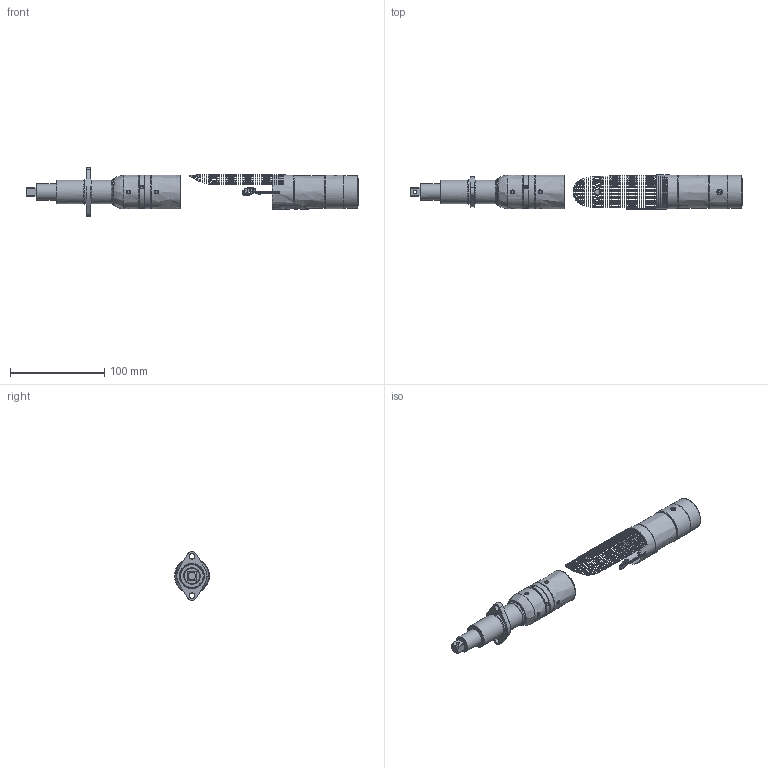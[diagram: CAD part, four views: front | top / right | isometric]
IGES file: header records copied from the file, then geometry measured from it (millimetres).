
Global section: file name: G:\Eng_Shared\PF\SURF MODELS\QE-QM\QE\QE2\Floating Spindle\16609802_A.igs; native system: NX V4.0; preprocessor: UGS NX IGES V4.0; date: 20090218.101445; units: millimetre
Bounding box: 352.42 x 37.09 x 52 mm (x, y, z)
Surface area: 39232.8 mm2 (no closed solid volume)
Topology: 0 solids, 0 shells, 853 faces, 5664 edges, 5485 vertices
Faces by surface type: bspline 853
